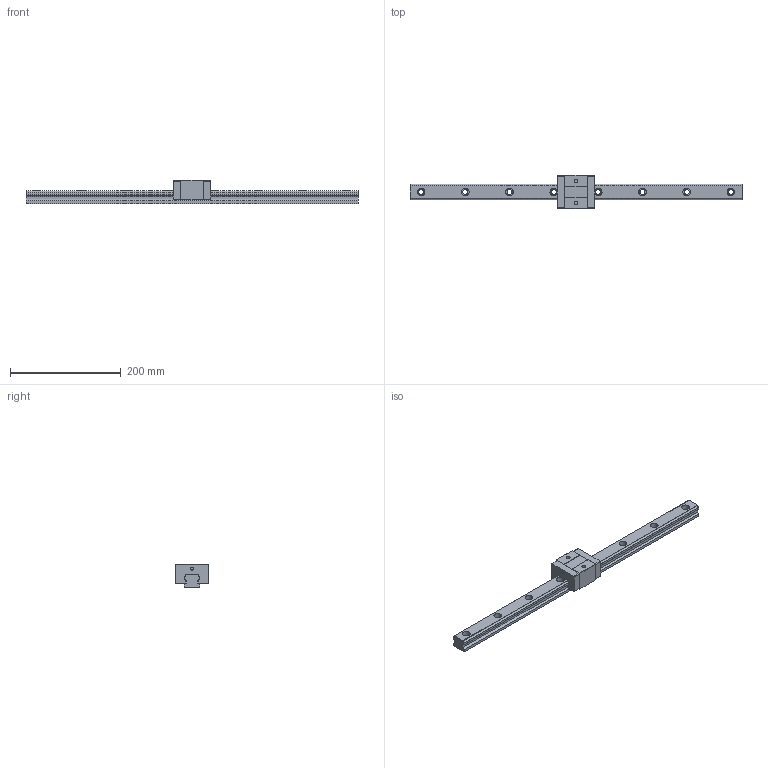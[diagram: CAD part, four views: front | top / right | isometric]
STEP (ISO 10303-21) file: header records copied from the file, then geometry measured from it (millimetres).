
FILE_DESCRIPTION (( 'STEP AP203' ), '1' );
FILE_NAME ('TRS30VS-XN.STEP', '2023-02-09T02:18:54', ( '' ), ( '' ), 'SwSTEP 2.0', 'SolidWorks 2019', '' );
FILE_SCHEMA (( 'CONFIG_CONTROL_DESIGN' ));
Length unit declared in the file: millimetre
Products named in the file (1): TRS30VS-XN
Bounding box: 600 x 60 x 42 mm (x, y, z)
Volume: 434172.5 mm3; surface area: 95265.1 mm2
Topology: 4 solids, 4 shells, 144 faces, 372 edges, 248 vertices
Faces by surface type: plane 84, cylinder 60
Entity records: 4519 total; most frequent: DIRECTION 782, CARTESIAN_POINT 765, ORIENTED_EDGE 744, EDGE_CURVE 372, AXIS2_PLACEMENT_3D 265, LINE 252, VECTOR 252, VERTEX_POINT 248
